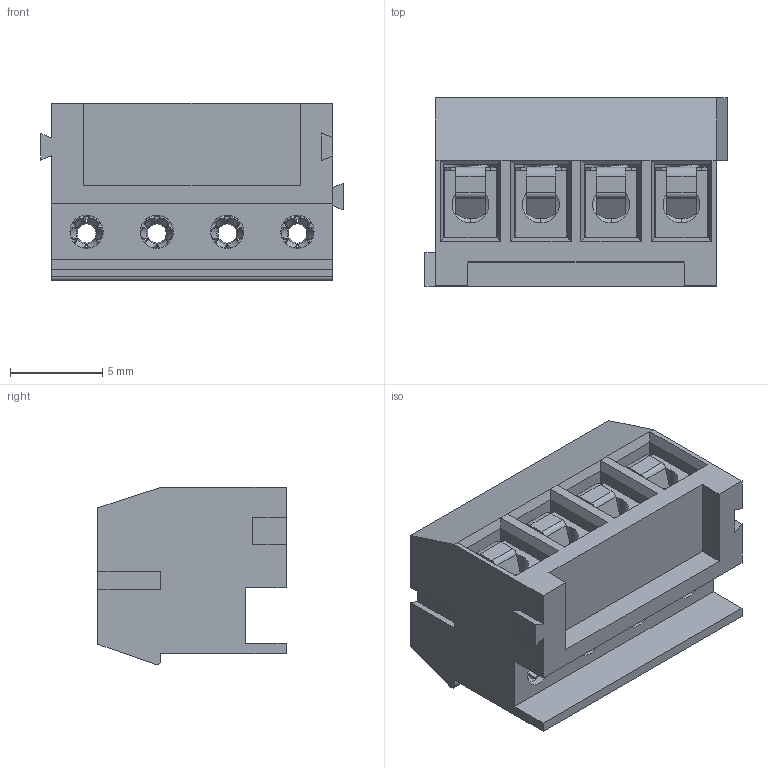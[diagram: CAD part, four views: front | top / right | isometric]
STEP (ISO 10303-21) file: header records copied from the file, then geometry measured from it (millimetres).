
FILE_DESCRIPTION((''),'2;1');
FILE_NAME('4PIN','2021-05-11T',('guoxue_sz'),(''),'CREO PARAMETRIC BY PTC INC, 2016260','CREO PARAMETRIC BY PTC INC, 2016260','');
FILE_SCHEMA(('CONFIG_CONTROL_DESIGN'));
Products named in the file (1): 4PIN
Bounding box: 16.38 x 10.2 x 9.6 mm (x, y, z)
Volume: 897 mm3; surface area: 2229.7 mm2
Topology: 1 solids, 1 shells, 1221 faces, 3419 edges, 2179 vertices
Faces by surface type: plane 476, cylinder 341, cone 160, bspline 124, torus 120
Entity records: 52425 total; most frequent: CARTESIAN_POINT 21313, ORIENTED_EDGE 6822, DIRECTION 6404, EDGE_CURVE 3411, AXIS2_PLACEMENT_3D 2487, VERTEX_POINT 2179, VECTOR 1430, LINE 1430
